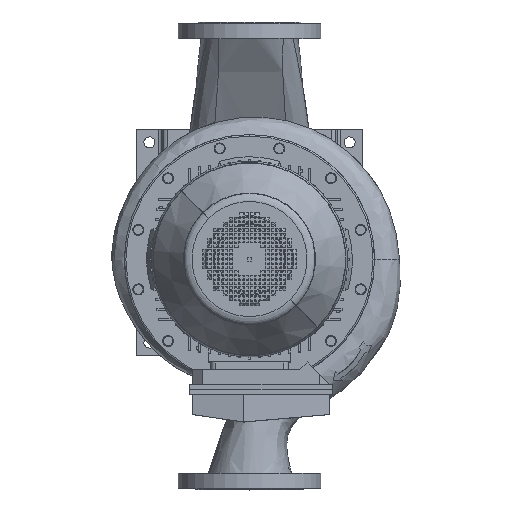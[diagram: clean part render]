
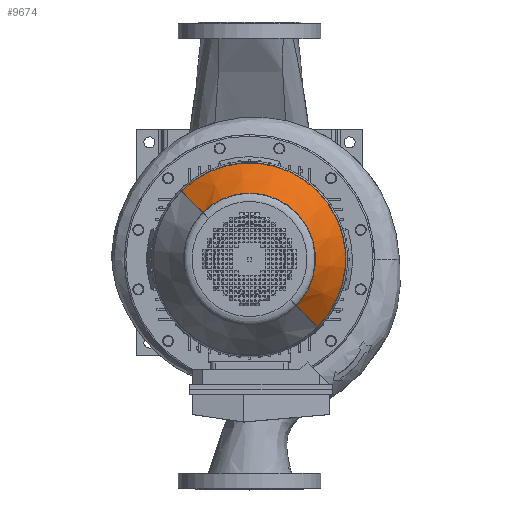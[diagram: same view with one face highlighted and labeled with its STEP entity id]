
A CAD part, top view. The second image highlights one B-rep face of the part: STEP entity #9674.
In plain terms, the highlighted conical face has half-angle 32.471 degrees and reference radius 126 mm.
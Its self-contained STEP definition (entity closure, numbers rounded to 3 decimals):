
#9674=ADVANCED_FACE('',(#22936),#22937,.T.);
#11370=EDGE_CURVE('',#25899,#25900,#25901,.T.);
#11372=EDGE_CURVE('',#25903,#25904,#25905,.T.);
#22936=FACE_OUTER_BOUND('',#42465,.T.);
#22937=CONICAL_SURFACE('',#42466,126.0,0.567);
#25899=VERTEX_POINT('',#45433);
#25900=VERTEX_POINT('',#45434);
#25901=CIRCLE('',#45435,192.873);
#25903=VERTEX_POINT('',#45438);
#25904=VERTEX_POINT('',#45439);
#25905=CIRCLE('',#45440,131.894);
#42465=EDGE_LOOP('',(#71940,#71941,#71942,#71943));
#42466=AXIS2_PLACEMENT_3D('',#71944,#71945,#71946);
#45433=CARTESIAN_POINT('',(192.873,0.,114.913));
#45434=CARTESIAN_POINT('',(-192.873,0.,114.913));
#45435=AXIS2_PLACEMENT_3D('',#80395,#80396,#80397);
#45438=CARTESIAN_POINT('',(-131.894,0.,210.738));
#45439=CARTESIAN_POINT('',(131.894,0.,210.738));
#45440=AXIS2_PLACEMENT_3D('',#80398,#80399,#80400);
#71940=ORIENTED_EDGE('',*,*,#91691,.F.);
#71941=ORIENTED_EDGE('',*,*,#11370,.F.);
#71942=ORIENTED_EDGE('',*,*,#91692,.F.);
#71943=ORIENTED_EDGE('',*,*,#11372,.F.);
#71944=CARTESIAN_POINT('',(0.0,0.0,220.0));
#71945=DIRECTION('',(-0.0,-0.0,-1.0));
#71946=DIRECTION('',(-1.0,0.,0.0));
#80395=CARTESIAN_POINT('',(0.0,0.0,114.913));
#80396=DIRECTION('',(0.0,0.0,-1.0));
#80397=DIRECTION('',(1.0,0.,0.0));
#80398=CARTESIAN_POINT('',(0.0,0.0,210.738));
#80399=DIRECTION('',(0.0,-0.0,1.0));
#80400=DIRECTION('',(1.0,0.,0.0));
#91691=EDGE_CURVE('',#25900,#25903,#96202,.T.);
#91692=EDGE_CURVE('',#25904,#25899,#96203,.T.);
#96202=LINE('',#100730,#100731);
#96203=LINE('',#100732,#100733);
#100730=CARTESIAN_POINT('',(-126.0,0.,220.0));
#100731=VECTOR('',#109631,1.0);
#100732=CARTESIAN_POINT('',(126.0,0.,220.0));
#100733=VECTOR('',#109632,1.0);
#109631=DIRECTION('',(0.537,0.,0.844));
#109632=DIRECTION('',(0.537,0.,-0.844));
